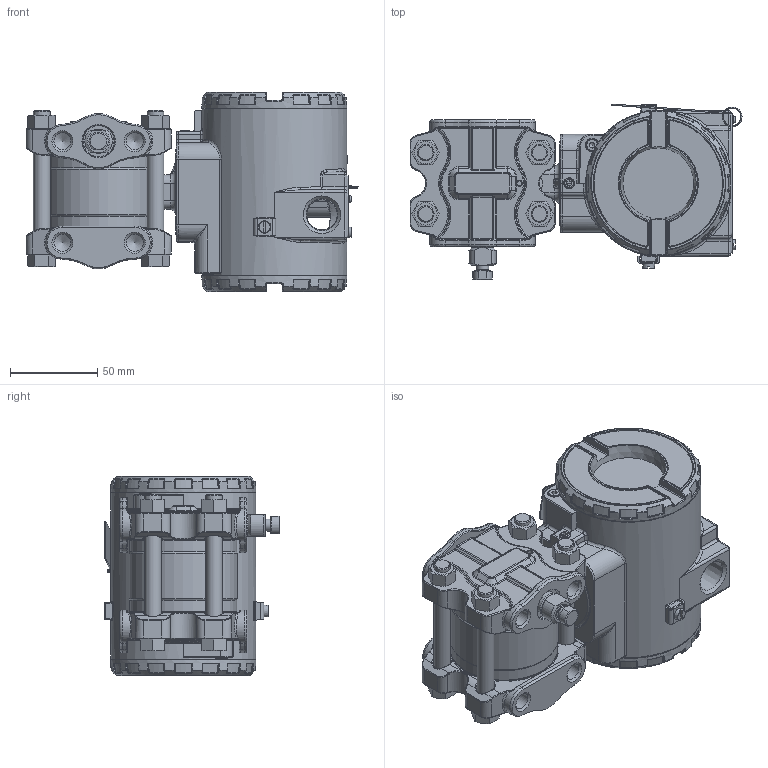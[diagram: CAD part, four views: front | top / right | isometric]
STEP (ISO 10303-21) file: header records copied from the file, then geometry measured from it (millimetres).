
FILE_DESCRIPTION(/* description */ (''),/* implementation_level */ '2;1');
FILE_NAME(/* name */ 'F:\Area\Desenvolvimento_2\Projects\Sensor\projetos\LD30X\montagens 3d - clientes\LD30XA5 1-4NPT purga oposta.stp',/* time_stamp */ '2023-01-26T11:20:04-03:00',/* author */ ('inventor02'),/* organization */ (''),/* preprocessor_version */ 'ST-DEVELOPER v17',/* originating_system */ 'Autodesk Inventor 2019',/* authorisation */ '');
FILE_SCHEMA (('CONFIG_CONTROL_DESIGN'));
Length unit declared in the file: millimetre
Products named in the file (30): LD30XA5 1-4NPT purga oposta; absoluto standard fx5 purga oposta; Flange manometrico standard; flange diferencial std sem purga; involucro fx5 apos a usinagem final; Paraf. 3-8 x 16 UNC; Porca 3-8 x 16 UNC; 075-B-0046-purgador; Sangria; carcaça vazia com tampas e plaqueta; carcaça LD inox sem letras; Subconjunto plaqueta 300; Plaqueta transmissor; Parafuso da Plaqueta; Rebite da Plaqueta; 096-A-0169-03; 101-A-0502-01; Chapa aterramento externo; ISO 1207 - M4 x 8; DIN 915 - M6 x 10; ANSI B18.3.1M - M4x0,7 x 8; Subconjunto tampa com visor aluminio; tampa pintada; VIDRO DO VISOR; oring 41x1 vidro tampa; Trava do vidro da tampa com visor; trava do vidro VH256; Subconjunto tampa sem visor-aluminio; tampa cega 300 pintada p0; 00034775-0
Assembly tree (37 placements, depth 4):
  LD30XA5 1-4NPT purga oposta
    absoluto standard fx5 purga oposta
      Flange manometrico standard
      flange diferencial std sem purga
      involucro fx5 apos a usinagem final
      Paraf. 3-8 x 16 UNC  x4
      Porca 3-8 x 16 UNC  x4
      075-B-0046-purgador
      Sangria
    carcaça vazia com tampas e plaqueta
      carcaça LD inox sem letras
      Subconjunto plaqueta 300
        Plaqueta transmissor
        Parafuso da Plaqueta
        Rebite da Plaqueta
        096-A-0169-03
        101-A-0502-01
      Chapa aterramento externo
      ISO 1207 - M4 x 8
      DIN 915 - M6 x 10
      ANSI B18.3.1M - M4x0,7 x 8  x2
      Subconjunto tampa com visor aluminio
        tampa pintada
        VIDRO DO VISOR
        oring 41x1 vidro tampa
        Trava do vidro da tampa com visor
        trava do vidro VH256
        00034775-0
      Subconjunto tampa sem visor-aluminio
        tampa cega 300 pintada p0
        00034775-0
Bounding box: 189.79 x 100.6 x 114 mm (x, y, z)
Volume: 573037.6 mm3; surface area: 228265 mm2
Topology: 32 solids, 32 shells, 2622 faces, 6289 edges, 3691 vertices
Faces by surface type: bspline 729, cylinder 609, plane 493, torus 448, cone 231, sphere 112
Full cylindrical faces by diameter (mm): 2 x2, 2.1 x2, 2.459 x5, 2.642 x1, 2.7 x1, 3 x4, 3.242 x4, 3.5 x4, 3.571 x1, 4 x4, 4.3 x1, 4.4 x1, 4.917 x1, 5.5 x3, 6 x2, 6.8 x1, 7 x5, 7.087 x2, 7.6 x2, 7.798 x4, 8 x1, 8.7 x2, 9.525 x4, 9.728 x8, 10.5 x8, 10.719 x2, 13.8 x1, 14 x1, 17.475 x2, 18.5 x2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
Entity records: 93320 total; most frequent: CARTESIAN_POINT 36182, ORIENTED_EDGE 12006, DIRECTION 11538, EDGE_CURVE 6003, AXIS2_PLACEMENT_3D 5081, VERTEX_POINT 3565, CIRCLE 2991, EDGE_LOOP 2634
